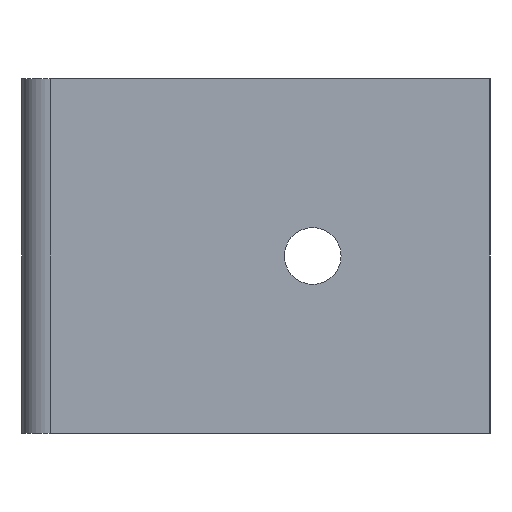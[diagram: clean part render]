
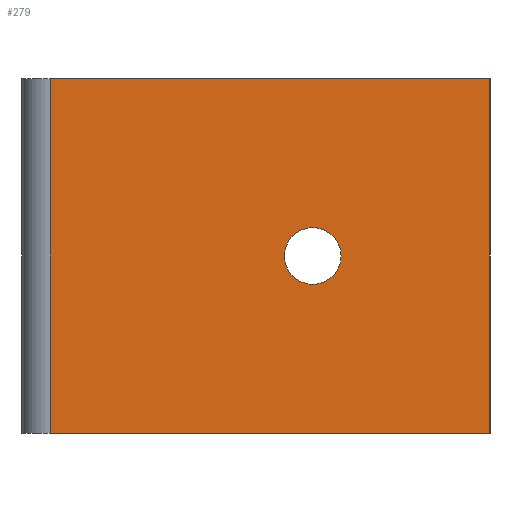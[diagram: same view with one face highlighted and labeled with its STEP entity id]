
A CAD part, left-side view. The second image highlights one B-rep face of the part: STEP entity #279.
In plain terms, the highlighted planar face has unit normal (-1, 0, 0).
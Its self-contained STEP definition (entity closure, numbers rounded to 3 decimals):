
#210=CARTESIAN_POINT('',(-155.5,-2.,25.));
#211=VERTEX_POINT('',#210);
#220=CARTESIAN_POINT('',(-155.5,-2.,0.));
#221=VERTEX_POINT('',#220);
#229=CARTESIAN_POINT('',(-155.5,-2.,0.));
#230=DIRECTION('',(0.,0.,1.));
#231=VECTOR('',#230,250.);
#232=LINE('',#229,#231);
#233=EDGE_CURVE('',#221,#211,#232,.T.);
#238=CARTESIAN_POINT('',(-155.5,-16.5,0.));
#239=DIRECTION('',(-1.,0.,0.));
#240=DIRECTION('',(0.,-1.,0.));
#241=AXIS2_PLACEMENT_3D('',#238,#239,#240);
#242=PLANE('',#241);
#243=ORIENTED_EDGE('',*,*,#233,.F.);
#244=CARTESIAN_POINT('',(-155.5,-33.,0.));
#245=VERTEX_POINT('',#244);
#246=CARTESIAN_POINT('',(-155.5,-33.,0.));
#247=DIRECTION('',(0.,1.,0.));
#248=VECTOR('',#247,310.);
#249=LINE('',#246,#248);
#250=EDGE_CURVE('',#245,#221,#249,.T.);
#251=ORIENTED_EDGE('',*,*,#250,.F.);
#252=CARTESIAN_POINT('',(-155.5,-33.,25.));
#253=VERTEX_POINT('',#252);
#254=CARTESIAN_POINT('',(-155.5,-33.,0.));
#255=DIRECTION('',(0.,0.,1.));
#256=VECTOR('',#255,250.);
#257=LINE('',#254,#256);
#258=EDGE_CURVE('',#245,#253,#257,.T.);
#259=ORIENTED_EDGE('',*,*,#258,.T.);
#260=CARTESIAN_POINT('',(-155.5,-33.,25.));
#261=DIRECTION('',(0.,1.,0.));
#262=VECTOR('',#261,310.);
#263=LINE('',#260,#262);
#264=EDGE_CURVE('',#253,#211,#263,.T.);
#265=ORIENTED_EDGE('',*,*,#264,.T.);
#266=EDGE_LOOP('',(#243,#251,#259,#265));
#267=FACE_BOUND('',#266,.T.);
#268=CARTESIAN_POINT('',(-155.5,-20.5,14.5));
#269=VERTEX_POINT('',#268);
#270=CARTESIAN_POINT('',(-155.5,-20.5,12.5));
#271=DIRECTION('',(1.,0.,0.));
#272=DIRECTION('',(0.,0.,-1.));
#273=AXIS2_PLACEMENT_3D('',#270,#271,#272);
#274=CIRCLE('',#273,2.);
#275=EDGE_CURVE('',#269,#269,#274,.T.);
#276=ORIENTED_EDGE('',*,*,#275,.T.);
#277=EDGE_LOOP('',(#276));
#278=FACE_BOUND('',#277,.T.);
#279=ADVANCED_FACE('',(#267,#278),#242,.T.);
